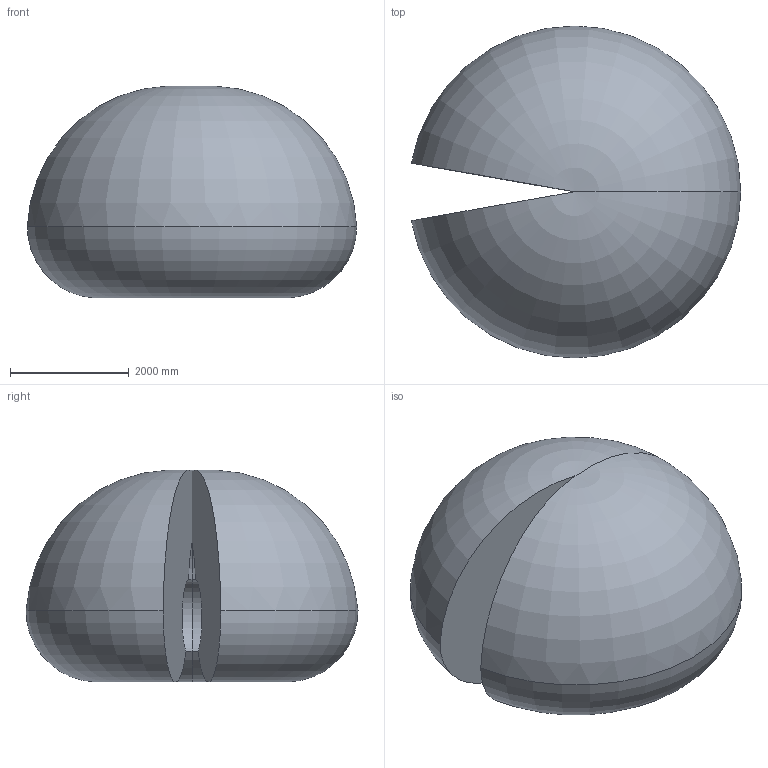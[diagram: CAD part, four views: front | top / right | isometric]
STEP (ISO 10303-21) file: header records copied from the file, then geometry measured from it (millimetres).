
FILE_DESCRIPTION (( 'STEP AP203' ), '1' );
FILE_NAME ('IRB6700_280_Working_space.STEP', '2013-10-23T12:32:01', ( 'ABB' ), ( 'ABB' ), 'SwSTEP 2.0', 'SolidWorks 2012', '' );
FILE_SCHEMA (( 'CONFIG_CONTROL_DESIGN' ));
Length unit declared in the file: millimetre
Products named in the file (1): IRB6700_280_Working_space
Bounding box: 5545.55 x 5588 x 3561.49 mm (x, y, z)
Volume: 56499956089 mm3; surface area: 97992379.7 mm2
Topology: 1 solids, 1 shells, 10 faces, 23 edges, 11 vertices
Faces by surface type: torus 8, plane 2
Entity records: 338 total; most frequent: DIRECTION 59, CARTESIAN_POINT 41, ORIENTED_EDGE 38, AXIS2_PLACEMENT_3D 29, EDGE_CURVE 19, CIRCLE 18, VERTEX_POINT 11, EDGE_LOOP 10
